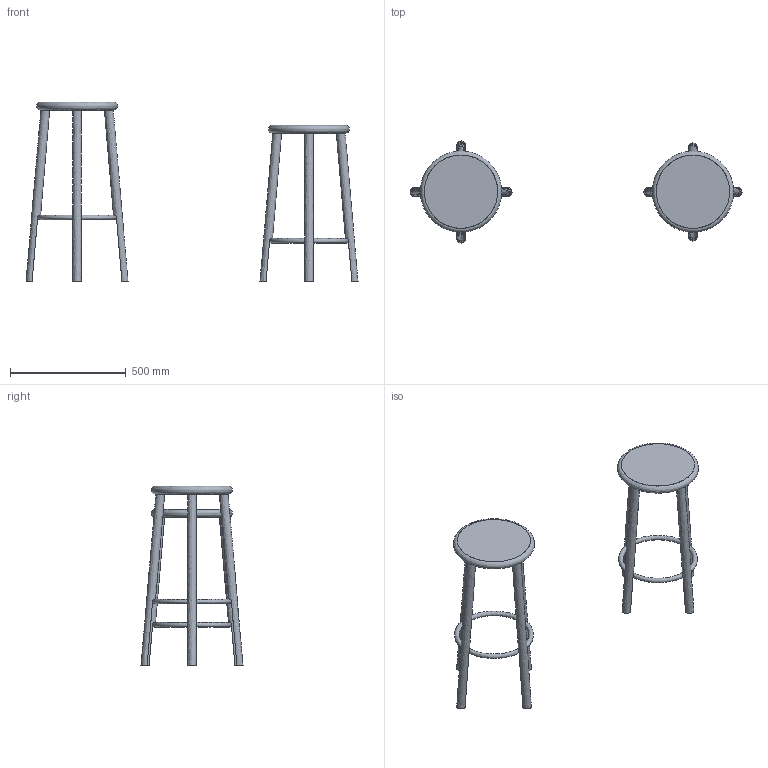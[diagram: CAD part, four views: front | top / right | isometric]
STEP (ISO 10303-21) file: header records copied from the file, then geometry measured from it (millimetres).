
FILE_DESCRIPTION(/* description */ (''),/* implementation_level */ '2;1');
FILE_NAME(/* name */ 'MC05_S~1',/* time_stamp */ '2021-04-10T10:39:02+02:00',/* author */ (''),/* organization */ (''),/* preprocessor_version */ 'ST-DEVELOPER v16.5',/* originating_system */ '',/* authorisation */ '');
FILE_SCHEMA (('AUTOMOTIVE_DESIGN'));
Length unit declared in the file: millimetre
Products named in the file (1): Document
Bounding box: 1431.39 x 440 x 775 mm (x, y, z)
Volume: 639540.1 mm3; surface area: 1364418.8 mm2
Topology: 2 solids, 44 shells, 44 faces, 160 edges, 140 vertices
Faces by surface type: bspline 44
Entity records: 14958 total; most frequent: CARTESIAN_POINT 13427, B_SPLINE_CURVE_WITH_KNOTS 284, ORIENTED_EDGE 166, PCURVE 166, DEFINITIONAL_REPRESENTATION 166, SURFACE_CURVE 152, EDGE_CURVE 152, VERTEX_POINT 140
